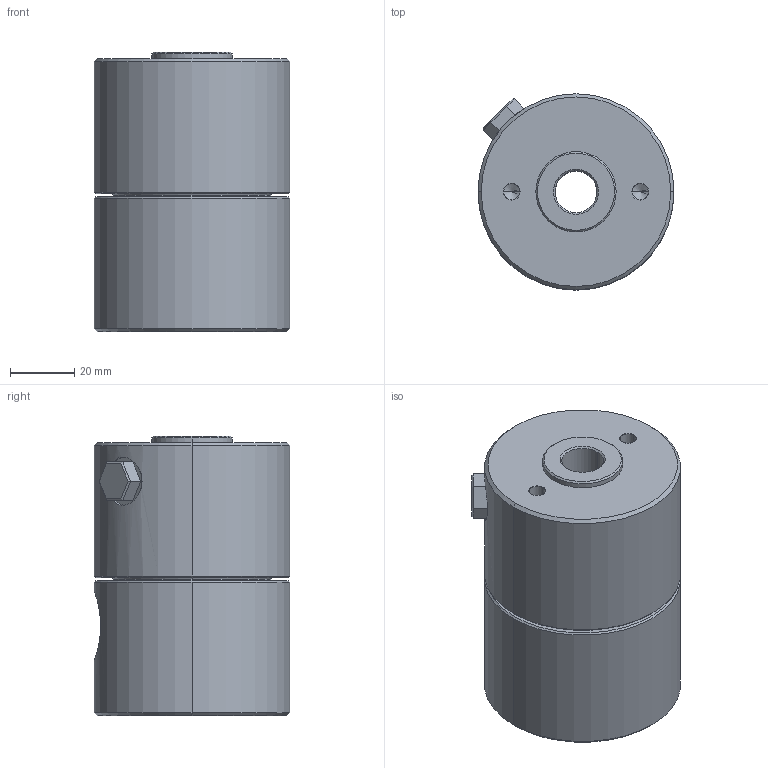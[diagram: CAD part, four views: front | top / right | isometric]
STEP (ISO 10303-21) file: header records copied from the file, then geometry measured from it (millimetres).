
FILE_DESCRIPTION (( 'STEP AP203' ), '1' );
FILE_NAME ('4610-111.STEP', '2016-01-29T10:18:45', ( '' ), ( '' ), 'SwSTEP 2.0', 'SolidWorks 2015', '' );
FILE_SCHEMA (( 'CONFIG_CONTROL_DESIGN' ));
Length unit declared in the file: millimetre
Products named in the file (1): 4610-111
Bounding box: 61 x 61 x 87 mm (x, y, z)
Volume: 233051.2 mm3; surface area: 29040.2 mm2
Topology: 1 solids, 2 shells, 71 faces, 152 edges, 86 vertices
Faces by surface type: cone 26, plane 21, cylinder 20, torus 4
Entity records: 2094 total; most frequent: CARTESIAN_POINT 483, DIRECTION 348, ORIENTED_EDGE 288, EDGE_CURVE 144, AXIS2_PLACEMENT_3D 136, VERTEX_POINT 86, EDGE_LOOP 82, LINE 76
